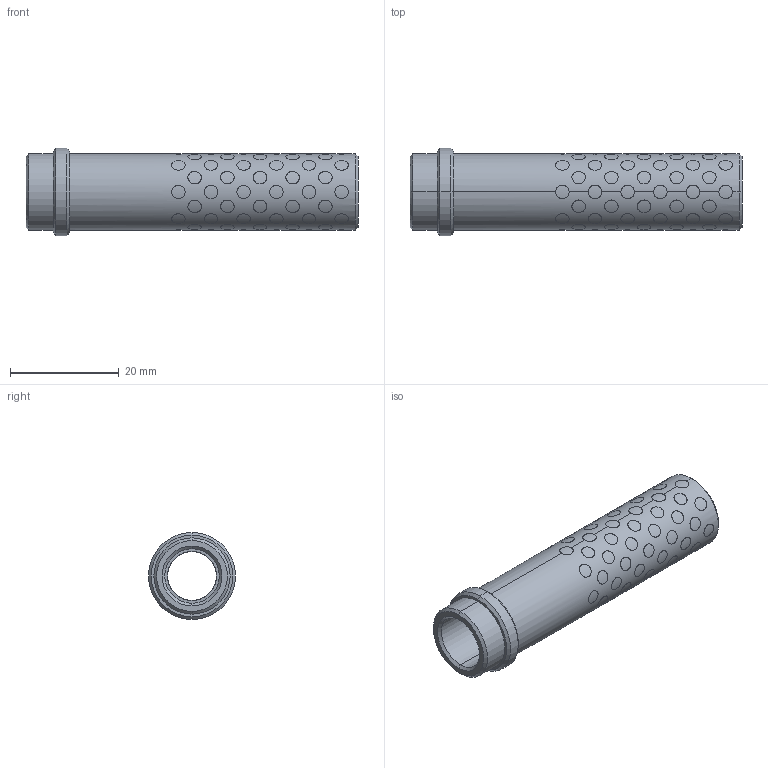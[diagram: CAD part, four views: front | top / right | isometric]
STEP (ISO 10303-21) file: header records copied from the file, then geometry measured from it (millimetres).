
FILE_DESCRIPTION((''),'2;1');
FILE_NAME('G31214056','2018-01-25T',('MANU'),(''),'PRO/ENGINEER BY PARAMETRIC TECHNOLOGY CORPORATION, 2012130','PRO/ENGINEER BY PARAMETRIC TECHNOLOGY CORPORATION, 2012130','');
FILE_SCHEMA(('CONFIG_CONTROL_DESIGN'));
Length unit declared in the file: millimetre
Products named in the file (1): G31214056
Bounding box: 61 x 16 x 16 mm (x, y, z)
Volume: 5234 mm3; surface area: 8185.3 mm2
Topology: 89 solids, 89 shells, 555 faces, 1182 edges, 784 vertices
Faces by surface type: cylinder 538, cone 12, plane 5
Entity records: 25114 total; most frequent: CARTESIAN_POINT 14289, ORIENTED_EDGE 2364, DIRECTION 1572, EDGE_CURVE 1182, VERTEX_POINT 784, B_SPLINE_CURVE_WITH_KNOTS 752, EDGE_LOOP 712, AXIS2_PLACEMENT_3D 587
